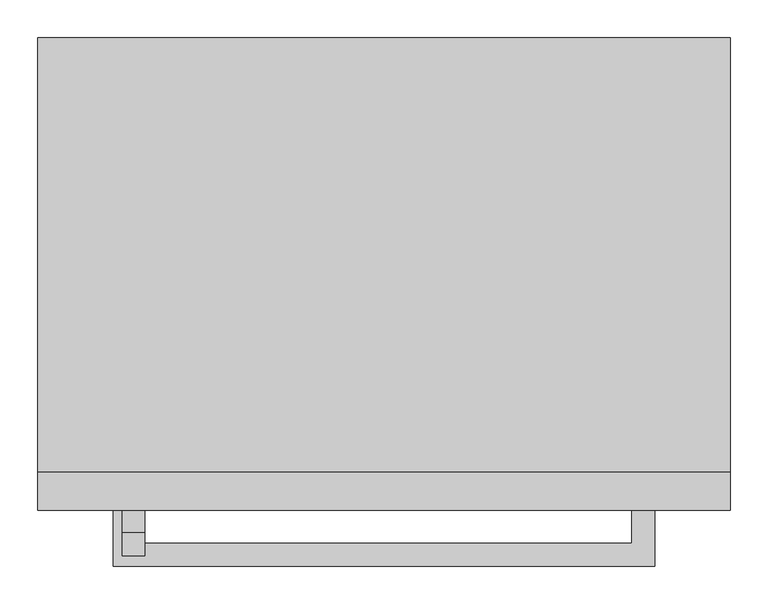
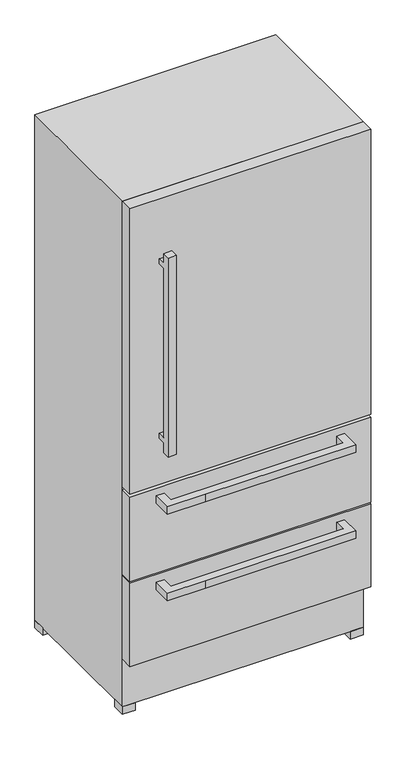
"""IFC4 building model written with IfcOpenShell, lengths in millimetres: proxy geometry, ECBN 6156, ECBN 5066 : ECBN 6156."""

from ifc_helpers import new_model, si_unit, frame, origin, place, context, project, spatial, polyline, outline, extrude, source, transform, mapped, element, save


def specialty_equipment_666701f5(model_context):
    return source(origin(), model_context, "Body", "SweptSolid", [
        extrude(outline(polyline([(-900.0, -728.4695177), (-900.0, -654.8345306), (-870.0, -654.8345306), (-870.0, -698.4695177), (-214.0, -698.4695177), (-214.0, -654.8345306), (-184.0, -654.8345306), (-184.0, -728.4695177), (-755.7952617, -728.4695177), (-900.0, -728.4695177)])), frame((0.0, 0.0, -598.1867483), z_axis=(0.0, 0.0, 1.0), x_axis=(1.0, 0.0, 0.0)), (0.0, 0.0, 1.0), 30.0),
        extrude(outline(polyline([(-900.0, -728.4695177), (-900.0, -654.8345306), (-870.0, -654.8345306), (-870.0, -698.4695177), (-214.0, -698.4695177), (-214.0, -654.8345306), (-184.0, -654.8345306), (-184.0, -728.4695177), (-755.7952617, -728.4695177), (-900.0, -728.4695177)])), frame((0.0, 0.0, -251.1867483), z_axis=(0.0, 0.0, 1.0), x_axis=(1.0, 0.0, 0.0)), (0.0, 0.0, 1.0), 30.0),
        extrude(outline(polyline([(-84.0, -654.8345306), (-1000.0, -654.8345306), (-1000.0, -604.8345306), (-84.0, -604.8345306), (-84.0, -654.8345306)])), frame((0.0, 0.0, -872.1867483), z_axis=(0.0, 0.0, 1.0), x_axis=(1.0, 0.0, 0.0)), (0.0, 0.0, 1.0), 334.0),
        extrude(outline(polyline([(-84.0, -654.8345306), (-1000.0, -654.8345306), (-1000.0, -604.8345306), (-84.0, -604.8345306), (-84.0, -654.8345306)])), frame((0.0, 0.0, -532.1867483), z_axis=(0.0, 0.0, 1.0), x_axis=(1.0, 0.0, 0.0)), (0.0, 0.0, 1.0), 341.0),
        extrude(outline(polyline([(-84.0, -554.8345306), (-84.0, -604.8345306), (-134.0, -604.8345306), (-134.0, -554.8345306), (-84.0, -554.8345306)])), frame((0.0, 0.0, -1095.1867483), z_axis=(0.0, 0.0, 1.0), x_axis=(1.0, 0.0, 0.0)), (0.0, 0.0, 1.0), 30.0),
        extrude(outline(polyline([(-84.0, -29.8345306), (-84.0, -79.8345306), (-134.0, -79.8345306), (-134.0, -29.8345306), (-84.0, -29.8345306)])), frame((0.0, 0.0, -1095.1867483), z_axis=(0.0, 0.0, 1.0), x_axis=(1.0, 0.0, 0.0)), (0.0, 0.0, 1.0), 30.0),
        extrude(outline(polyline([(-950.0, -29.8345306), (-950.0, -79.8345306), (-1000.0, -79.8345306), (-1000.0, -29.8345306), (-950.0, -29.8345306)])), frame((0.0, 0.0, -1095.1867483), z_axis=(0.0, 0.0, 1.0), x_axis=(1.0, 0.0, 0.0)), (0.0, 0.0, 1.0), 30.0),
        extrude(outline(polyline([(-950.0, -554.8345306), (-950.0, -604.8345306), (-1000.0, -604.8345306), (-1000.0, -554.8345306), (-950.0, -554.8345306)])), frame((0.0, 0.0, -1095.1867483), z_axis=(0.0, 0.0, 1.0), x_axis=(1.0, 0.0, 0.0)), (0.0, 0.0, 1.0), 30.0),
        extrude(outline(polyline([(-684.8345306, 726.8132517), (-654.8345306, 726.8132517), (-654.8345306, 706.8132517), (-684.8345306, 706.8132517), (-684.8345306, 26.8132517), (-654.8345306, 26.8132517), (-654.8345306, 6.8132517), (-684.8345306, 6.8132517), (-684.8345306, -33.1867483), (-714.8345306, -33.1867483), (-714.8345306, 766.8132517), (-684.8345306, 766.8132517), (-684.8345306, 726.8132517)])), frame((-888.4104602, 0.0, 0.0), z_axis=(1.0, 0.0, 0.0), x_axis=(0.0, 1.0, 0.0)), (0.0, 0.0, 1.0), 30.0),
        extrude(outline(polyline([(-84.0, -654.8345306), (-1000.0, -654.8345306), (-1000.0, -604.8345306), (-84.0, -604.8345306), (-84.0, -654.8345306)])), frame((0.0, 0.0, -179.1867483), z_axis=(0.0, 0.0, 1.0), x_axis=(1.0, 0.0, 0.0)), (0.0, 0.0, 1.0), 1146.0),
        extrude(outline(polyline([(-84.0, -604.8345306), (-1000.0, -604.8345306), (-1000.0, -29.8345306), (-84.0, -29.8345306), (-84.0, -604.8345306)])), frame((0.0, 0.0, -1065.1867483), z_axis=(0.0, 0.0, 1.0), x_axis=(1.0, 0.0, 0.0)), (0.0, 0.0, 1.0), 2032.0),
    ])


if __name__ == "__main__":
    model = new_model("IFC4")
    model_context = context("Model", 3, world=origin())
    ifc_project = project(units=[si_unit("LENGTHUNIT", "METRE", prefix="MILLI")], contexts=[model_context])
    site = spatial("IfcSite", under=ifc_project)
    building = spatial("IfcBuilding", under=site)
    placement = place(None, origin())
    specialty_equipment_shape = specialty_equipment_666701f5(model_context)
    element("IfcBuildingElementProxy", 1, Name="ECBN 6156, ECBN 5066 : ECBN 6156", ObjectType="ECBN 6156, ECBN 5066 : ECBN 6156", at=placement, inside=building, context=model_context, shape_type="MappedRepresentation", body=[
        mapped(specialty_equipment_shape, transform((0.0, 0.0, 0.0), x_axis=(1.0, 0.0, 0.0), y_axis=(0.0, 1.0, 0.0), z_axis=(0.0, 0.0, 1.0))),
    ])
    save(model, "model.ifc")
